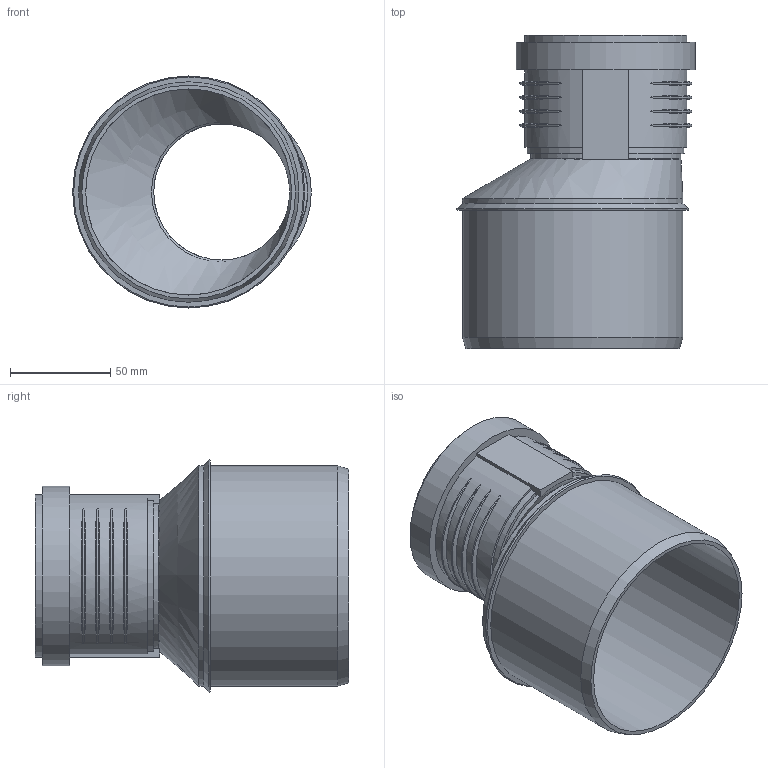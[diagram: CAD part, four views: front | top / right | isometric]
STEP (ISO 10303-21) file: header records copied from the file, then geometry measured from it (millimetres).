
FILE_DESCRIPTION(/* description */ (''),/* implementation_level */ '2;1');
FILE_NAME(/* name */ 'Z:\Geberit\Export\NewStep\390573.stp',/* time_stamp */ '2014-04-02T08:15:13+02:00',/* author */ ('ML'),/* organization */ (''),/* preprocessor_version */ 'ST-DEVELOPER v15.2',/* originating_system */ 'Autodesk Inventor 2014',/* authorisation */ '');
FILE_SCHEMA (('AUTOMOTIVE_DESIGN { 1 0 10303 214 3 1 1 }'));
Length unit declared in the file: millimetre
Products named in the file (3): 861308; 861402; 390573
Bounding box: 119.3 x 156.5 x 116 mm (x, y, z)
Volume: 162002.1 mm3; surface area: 109642.4 mm2
Topology: 2 solids, 2 shells, 68 faces, 162 edges, 112 vertices
Faces by surface type: torus 25, plane 20, cylinder 18, cone 3, bspline 2
Full cylindrical faces by diameter (mm): 68 x1, 70.2 x1, 75.2 x2, 76.2 x2, 81.2 x1, 84.6 x1, 89.6 x1, 103 x1, 110.2 x2
Entity records: 2726 total; most frequent: CARTESIAN_POINT 1117, DIRECTION 296, ORIENTED_EDGE 290, EDGE_CURVE 145, AXIS2_PLACEMENT_3D 130, VERTEX_POINT 111, EDGE_LOOP 102, STYLED_ITEM 68
